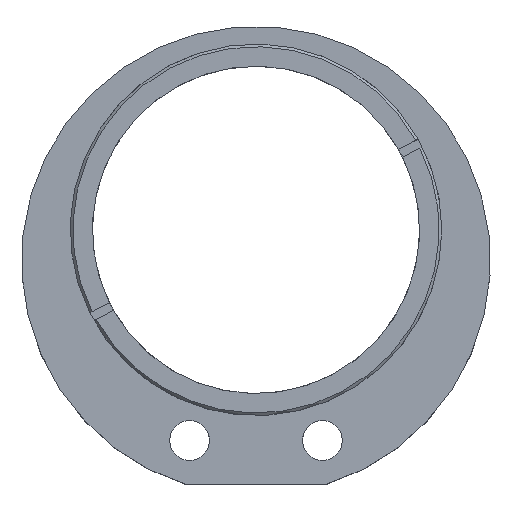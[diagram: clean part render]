
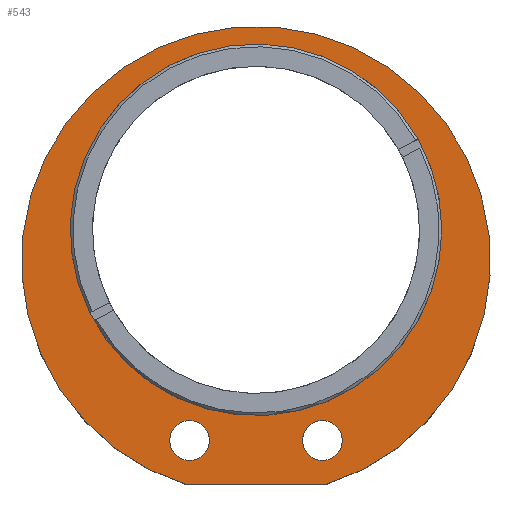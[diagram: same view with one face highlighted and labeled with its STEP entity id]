
A CAD part, top view. The second image highlights one B-rep face of the part: STEP entity #543.
In plain terms, the highlighted planar face has unit normal (0, 0, 1).
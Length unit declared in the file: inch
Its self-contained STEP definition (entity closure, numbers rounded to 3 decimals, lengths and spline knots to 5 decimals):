
#43=LINE($,#954,#67);
#67=VECTOR($,#763,0.6208);
#84=PLANE($,#612);
#113=FACE_BOUND($,#193,.T.);
#114=FACE_BOUND($,#194,.T.);
#115=FACE_BOUND($,#195,.T.);
#116=FACE_BOUND($,#196,.T.);
#193=EDGE_LOOP($,(#462));
#194=EDGE_LOOP($,(#463));
#195=EDGE_LOOP($,(#464));
#196=EDGE_LOOP($,(#465,#466));
#221=CIRCLE($,#592,0.08858);
#223=CIRCLE($,#595,0.08858);
#229=CIRCLE($,#608,0.82677);
#230=CIRCLE($,#611,1.04331);
#266=VERTEX_POINT($,#922);
#268=VERTEX_POINT($,#927);
#275=VERTEX_POINT($,#948);
#276=VERTEX_POINT($,#951);
#277=VERTEX_POINT($,#953);
#327=EDGE_CURVE($,#266,#266,#221,.T.);
#329=EDGE_CURVE($,#268,#268,#223,.T.);
#336=EDGE_CURVE($,#275,#275,#229,.T.);
#338=EDGE_CURVE($,#277,#276,#43,.T.);
#340=EDGE_CURVE($,#277,#276,#230,.T.);
#462=ORIENTED_EDGE($,*,*,#327,.T.);
#463=ORIENTED_EDGE($,*,*,#329,.T.);
#464=ORIENTED_EDGE($,*,*,#336,.T.);
#465=ORIENTED_EDGE($,*,*,#338,.T.);
#466=ORIENTED_EDGE($,*,*,#340,.F.);
#543=ADVANCED_FACE($,(#113,#114,#115,#116),#84,.F.);
#592=AXIS2_PLACEMENT_3D($,#923,#725,#726);
#595=AXIS2_PLACEMENT_3D($,#928,#731,#732);
#608=AXIS2_PLACEMENT_3D($,#949,#758,#759);
#611=AXIS2_PLACEMENT_3D($,#957,#767,#768);
#612=AXIS2_PLACEMENT_3D($,#958,#769,#770);
#725=DIRECTION('center_axis',(0.,0.,-1.));
#726=DIRECTION('ref_axis',(1.,0.,0.));
#731=DIRECTION('center_axis',(0.,0.,-1.));
#732=DIRECTION('ref_axis',(1.,0.,0.));
#758=DIRECTION('center_axis',(0.,0.,-1.));
#759=DIRECTION('ref_axis',(-1.,0.,0.));
#763=DIRECTION($,(1.,0.,0.));
#767=DIRECTION('center_axis',(0.,0.,-1.));
#768=DIRECTION('ref_axis',(-1.,0.,0.));
#769=DIRECTION('center_axis',(0.,0.,-1.));
#770=DIRECTION('ref_axis',(-1.,0.,0.));
#922=CARTESIAN_POINT('',(-0.20669,-0.79921,0.47244));
#923=CARTESIAN_POINT('Origin',(-0.29528,-0.79921,0.47244));
#927=CARTESIAN_POINT('',(0.38386,-0.79921,0.47244));
#928=CARTESIAN_POINT('Origin',(0.29528,-0.79921,0.47244));
#948=CARTESIAN_POINT('',(0.82677,0.1378,0.47244));
#949=CARTESIAN_POINT('Origin',(0.,0.1378,
0.47244));
#951=CARTESIAN_POINT('',(0.3104,-0.99606,0.47244));
#953=CARTESIAN_POINT('',(-0.3104,-0.99606,0.47244));
#954=CARTESIAN_POINT($,(0.1552,-0.99606,0.47244));
#957=CARTESIAN_POINT('Origin',(0.,0.,0.47244));
#958=CARTESIAN_POINT('Origin',(0.,0.,0.47244));
